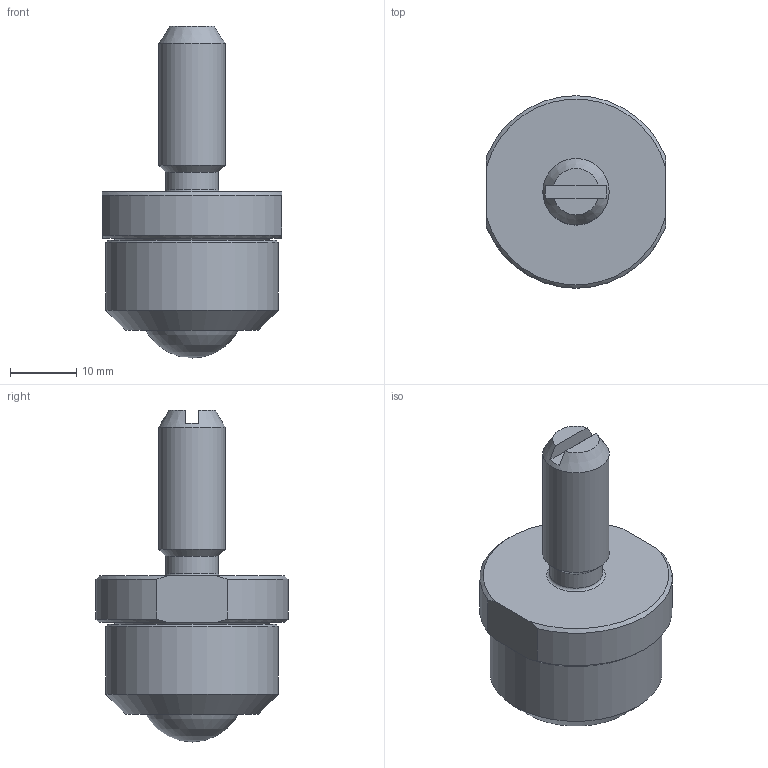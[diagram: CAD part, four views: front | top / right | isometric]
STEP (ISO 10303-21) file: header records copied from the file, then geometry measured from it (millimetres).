
FILE_DESCRIPTION(/* description */ (''),/* implementation_level */ '2;1');
FILE_NAME(/* name */ 'Z:\80-CAD共有ファイル\製品3D\X2\30C730FC30BF\X0\\14-IK-SNM\IK-16SNM.stp',/* time_stamp */ '2015-01-07T09:45:03+09:00',/* author */ ('yamaki'),/* organization */ (''),/* preprocessor_version */ 'ST-DEVELOPER v15.6',/* originating_system */ 'Autodesk Inventor 2015',/* authorisation */ '');
FILE_SCHEMA (('AUTOMOTIVE_DESIGN { 1 0 10303 214 3 1 1 }'));
Length unit declared in the file: millimetre
Products named in the file (1): 1416AA
Bounding box: 27 x 29 x 50 mm (x, y, z)
Volume: 13542.1 mm3; surface area: 4177.6 mm2
Topology: 1 solids, 1 shells, 33 faces, 72 edges, 45 vertices
Faces by surface type: plane 12, cone 9, cylinder 7, torus 4, sphere 1
Full cylindrical faces by diameter (mm): 8 x1, 10 x1, 15 x1, 16.6 x1, 26 x1
Entity records: 814 total; most frequent: CARTESIAN_POINT 154, DIRECTION 140, ORIENTED_EDGE 108, AXIS2_PLACEMENT_3D 64, EDGE_CURVE 54, EDGE_LOOP 52, VERTEX_POINT 42, FACE_OUTER_BOUND 33
